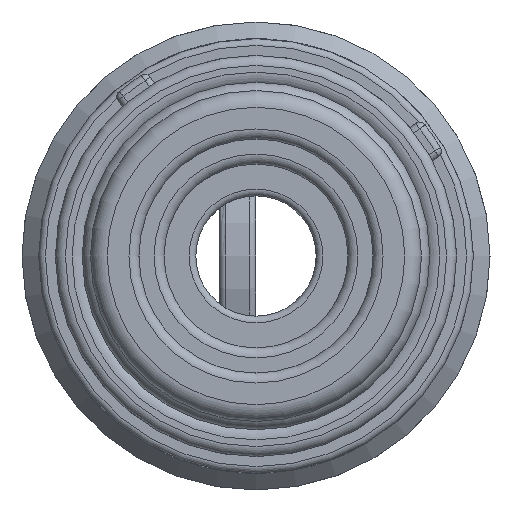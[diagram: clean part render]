
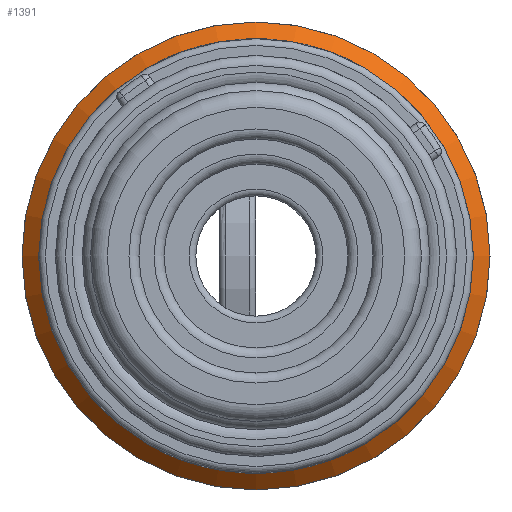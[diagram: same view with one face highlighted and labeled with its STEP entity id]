
A CAD part, left-side view. The second image highlights one B-rep face of the part: STEP entity #1391.
In plain terms, the highlighted conical face has half-angle 45 degrees and reference radius 7 mm.
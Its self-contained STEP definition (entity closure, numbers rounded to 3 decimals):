
#1391 = ADVANCED_FACE( '', ( #2949, #2950 ), #2951, .T. );
#2949 = FACE_BOUND( '', #7369, .T. );
#2950 = FACE_OUTER_BOUND( '', #7370, .T. );
#2951 = CONICAL_SURFACE( '', #7371, 7., 0.785 );
#7369 = EDGE_LOOP( '', ( #11680 ) );
#7370 = EDGE_LOOP( '', ( #11681 ) );
#7371 = AXIS2_PLACEMENT_3D( '', #11682, #11683, #11684 );
#11680 = ORIENTED_EDGE( '', *, *, #13604, .F. );
#11681 = ORIENTED_EDGE( '', *, *, #13760, .T. );
#11682 = CARTESIAN_POINT( '', ( 14.55, 0., 0. ) );
#11683 = DIRECTION( '', ( 1., 0., 0. ) );
#11684 = DIRECTION( '', ( 0., 0., -1. ) );
#13604 = EDGE_CURVE( '', #15831, #15831, #15832, .T. );
#13760 = EDGE_CURVE( '', #16019, #16019, #16020, .T. );
#15831 = VERTEX_POINT( '', #20421 );
#15832 = CIRCLE( '', #20422, 6.5 );
#16019 = VERTEX_POINT( '', #20853 );
#16020 = CIRCLE( '', #20854, 7. );
#20421 = CARTESIAN_POINT( '', ( 14.05, 0., 6.5 ) );
#20422 = AXIS2_PLACEMENT_3D( '', #22714, #22715, #22716 );
#20853 = CARTESIAN_POINT( '', ( 14.55, 0., 7. ) );
#20854 = AXIS2_PLACEMENT_3D( '', #22885, #22886, #22887 );
#22714 = CARTESIAN_POINT( '', ( 14.05, 0., 0. ) );
#22715 = DIRECTION( '', ( -1., 0., 0. ) );
#22716 = DIRECTION( '', ( 0., 0., 1. ) );
#22885 = CARTESIAN_POINT( '', ( 14.55, 0., 0. ) );
#22886 = DIRECTION( '', ( -1., 0., 0. ) );
#22887 = DIRECTION( '', ( 0., 0., 1. ) );
